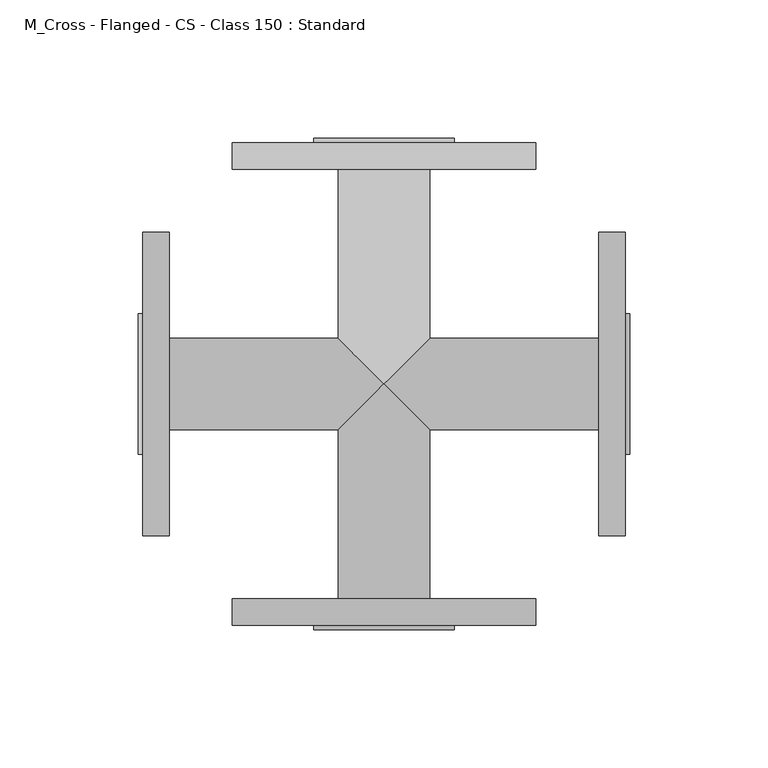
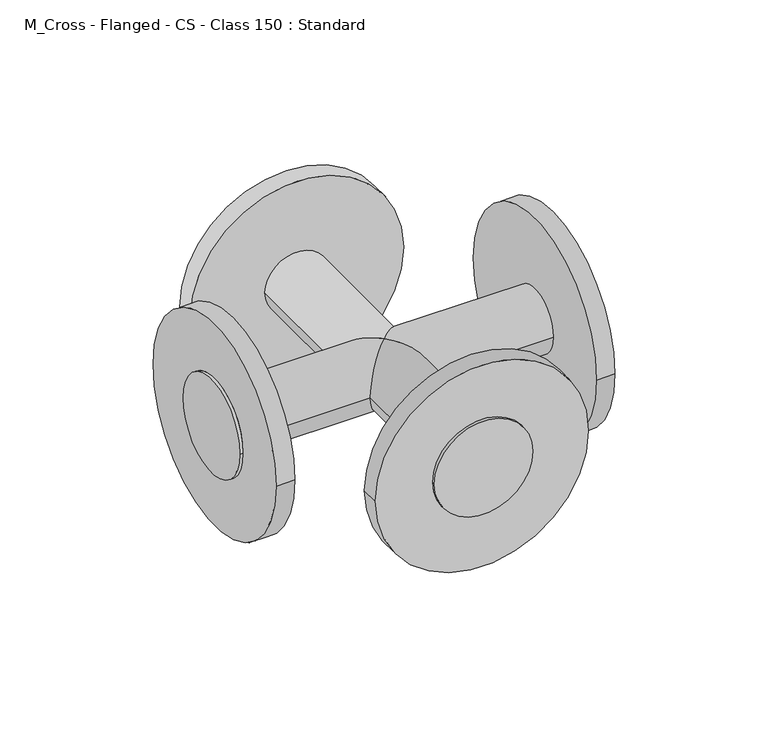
"""IFC4 building model written with IfcOpenShell, lengths in millimetres: pipe fitting geometry, M_Cross - Flanged - CS - Class 150 : Standard."""

import ifcopenshell
import ifcopenshell.guid

model = None  # the IFC model being written
_history = None  # IfcOwnerHistory: only IFC2X3 demands one
_inside = {}  # id of a spatial element -> (the spatial element, [elements in it])
_under = {}  # id of a project, library or spatial element -> (it, [spatial elements below it])
_declared = {}  # id of a project -> (the project, [libraries it declares])
_typed = {}  # id of a type object -> (the type object, [elements of that type])
_made_of = {}  # id of a material, layer set ... -> (it, [elements and type objects made of it])


def new_model(schema):
    """Start an empty IFC model of exactly this schema.

    Asked for "IFC4X3", IfcOpenShell would pick the latest addendum, in which some entities
    have other attributes; the version numbers below select the first issue.
    IFC2X3 requires an IfcOwnerHistory on every rooted entity: one is made here for all.
    """
    global model, _history
    if schema == "IFC4X3":
        model = ifcopenshell.file(schema_version=(4, 3, 0, 0))
    else:
        model = ifcopenshell.file(schema=schema)
    _inside.clear()
    _under.clear()
    _declared.clear()
    _typed.clear()
    _made_of.clear()
    _history = None
    if model.schema == "IFC2X3":
        org = make("IfcOrganization", Name="unknown")
        user = make(
            "IfcPersonAndOrganization",
            ThePerson=make("IfcPerson", FamilyName="unknown"),
            TheOrganization=org,
        )
        app = make(
            "IfcApplication",
            ApplicationDeveloper=org,
            Version="unknown",
            ApplicationFullName="unknown",
            ApplicationIdentifier="unknown",
        )
        _history = make(
            "IfcOwnerHistory",
            OwningUser=user,
            OwningApplication=app,
            ChangeAction="ADDED",
            CreationDate=0,
        )
    return model


def make(cls, **values):
    """One entity of the class cls with the attributes given. An attribute that is None is left unset."""
    return model.create_entity(
        cls, **{name: value for name, value in values.items() if value is not None}
    )


def rooted(cls, **values):
    """An entity with a GlobalId (a new one), such as an element, a storey or a relation."""
    return make(cls, GlobalId=ifcopenshell.guid.new(), OwnerHistory=_history, **values)


def si_unit(unit_type, name, prefix=None):
    """IfcSIUnit, for example si_unit("LENGTHUNIT", "METRE", prefix="MILLI")."""
    return make("IfcSIUnit", UnitType=unit_type, Prefix=prefix, Name=name)


def assignment(units):
    """IfcUnitAssignment: the units of a project."""
    return None if units is None else make("IfcUnitAssignment", Units=units)


def point(xyz):
    """IfcCartesianPoint."""
    return None if xyz is None else make("IfcCartesianPoint", Coordinates=xyz)


def direction(xyz):
    """IfcDirection."""
    return None if xyz is None else make("IfcDirection", DirectionRatios=xyz)


def frame(location, z_axis=None, x_axis=None):
    """IfcAxis2Placement3D, a coordinate frame: its origin and axes. An axis left out is left unset."""
    return make(
        "IfcAxis2Placement3D",
        Location=point(location),
        Axis=direction(z_axis),
        RefDirection=direction(x_axis),
    )


def origin():
    """The frame at (0, 0, 0) with its axes left unset."""
    return frame((0.0, 0.0, 0.0))


def place(relative_to, where):
    """IfcLocalPlacement: puts the frame where relative to a parent placement (None: the world)."""
    return make(
        "IfcLocalPlacement", PlacementRelTo=relative_to, RelativePlacement=where
    )


def context(
    kind, dimensions, precision=None, world=None, true_north=None, identifier=None
):
    """IfcGeometricRepresentationContext, for example the 3D "Model" context."""
    return make(
        "IfcGeometricRepresentationContext",
        ContextIdentifier=identifier,
        ContextType=kind,
        CoordinateSpaceDimension=dimensions,
        Precision=precision,
        WorldCoordinateSystem=world,
        TrueNorth=true_north,
    )


def project(units=None, contexts=None):
    """IfcProject with its units and contexts."""
    return rooted(
        "IfcProject",
        Name="project",
        RepresentationContexts=contexts,
        UnitsInContext=assignment(units),
    )


def spatial(cls, under=None, at=None, **own):
    """A site, building, storey or space (cls), placed at a placement, below another one or the project."""
    s = rooted(cls, ObjectPlacement=at, **own)
    if under is not None:
        _under.setdefault(under.id(), (under, []))[1].append(s)
    return s


def circle_curve(where, radius):
    """IfcCircle in the frame where."""
    return make("IfcCircle", Position=where, Radius=radius)


def ellipse_curve(where, semi_axis1, semi_axis2):
    """IfcEllipse in the frame where."""
    return make(
        "IfcEllipse", Position=where, SemiAxis1=semi_axis1, SemiAxis2=semi_axis2
    )


def shape(context_of_items, identifier, shape_type, items):
    """IfcShapeRepresentation: the items that make up one representation, for example the "Body"."""
    return make(
        "IfcShapeRepresentation",
        ContextOfItems=context_of_items,
        RepresentationIdentifier=identifier,
        RepresentationType=shape_type,
        Items=items,
    )


def source(mapping_origin, context_of_items, identifier, shape_type, items):
    """IfcRepresentationMap: a shape defined once, which mapped items show again and again."""
    return make(
        "IfcRepresentationMap",
        MappingOrigin=mapping_origin,
        MappedRepresentation=shape(context_of_items, identifier, shape_type, items),
    )


def transform(
    local_origin,
    x_axis=None,
    y_axis=None,
    z_axis=None,
    scale=None,
    scale2=None,
    scale3=None,
    uniform=True,
):
    """IfcCartesianTransformationOperator3D, or its non-uniform kind. x_axis, y_axis, z_axis: its Axis1, 2, 3."""
    if uniform:
        return make(
            "IfcCartesianTransformationOperator3D",
            Axis1=direction(x_axis),
            Axis2=direction(y_axis),
            LocalOrigin=point(local_origin),
            Scale=scale,
            Axis3=direction(z_axis),
        )
    return make(
        "IfcCartesianTransformationOperator3DnonUniform",
        Axis1=direction(x_axis),
        Axis2=direction(y_axis),
        LocalOrigin=point(local_origin),
        Scale=scale,
        Axis3=direction(z_axis),
        Scale2=scale2,
        Scale3=scale3,
    )


def mapped(mapping_source, mapping_target):
    """IfcMappedItem: shows the shape of a source again, moved by a transform."""
    return make(
        "IfcMappedItem", MappingSource=mapping_source, MappingTarget=mapping_target
    )


def made_of(thing, what):
    """Note that an element or type object is made of a material, layer set ...; save() writes the relation."""
    if what is not None:
        _made_of.setdefault(what.id(), (what, []))[1].append(thing)
    return thing


def element(
    cls,
    number,
    at=None,
    inside=None,
    cuts=None,
    type_object=None,
    material=None,
    context=None,
    identifier="Body",
    shape_type=None,
    held_by="IfcProductDefinitionShape",
    body=None,
    shapes=None,
    **own,
):
    """One element of the class cls, such as IfcWall. Its Tag is "e" and its number.

    at: its placement. inside: the storey or other place that contains it. cuts: it is an
    opening in that element (IfcRelVoidsElement). A single representation is given by context,
    identifier, shape_type and body (its items); several are given by shapes. held_by: the class
    of the entity that holds the representations. save() writes the other relations.
    """
    e = rooted(cls, Tag="e%d" % number, ObjectPlacement=at, **own)
    if body is not None:
        shapes = [shape(context, identifier, shape_type, body)]
    if shapes is not None:
        e.Representation = make(held_by, Representations=shapes)
    if inside is not None:
        _inside.setdefault(inside.id(), (inside, []))[1].append(e)
    if cuts is not None:
        rooted(
            "IfcRelVoidsElement", RelatingBuildingElement=cuts, RelatedOpeningElement=e
        )
    if type_object is not None:
        _typed.setdefault(type_object.id(), (type_object, []))[1].append(e)
    return made_of(e, material)


def aggregate(whole, parts):
    """IfcRelAggregates: a whole, such as a stair, and the parts it consists of."""
    return rooted("IfcRelAggregates", RelatingObject=whole, RelatedObjects=parts)


def save(model, path):
    """Write the relations noted so far, then the file.

    IfcRelAggregates (storeys below a building ...), IfcRelContainedInSpatialStructure (elements
    in a storey), IfcRelDefinesByType, IfcRelAssociatesMaterial and IfcRelDeclares: one each for
    every whole, place, type object, material and project.
    """
    for whole, parts in _under.values():
        aggregate(whole, parts)
    for where, things in _inside.values():
        rooted(
            "IfcRelContainedInSpatialStructure",
            RelatedElements=things,
            RelatingStructure=where,
        )
    for kind, things in _typed.values():
        rooted("IfcRelDefinesByType", RelatedObjects=things, RelatingType=kind)
    for what, things in _made_of.values():
        rooted("IfcRelAssociatesMaterial", RelatedObjects=things, RelatingMaterial=what)
    for by, libraries in _declared.values():
        rooted("IfcRelDeclares", RelatingContext=by, RelatedDefinitions=libraries)
    model.write(path)


def plane_surface(at):
    """IfcPlane: the flat surface through the origin of the frame at, square to its z axis."""
    return make("IfcPlane", Position=at)


def cylinder_surface(at, radius):
    """IfcCylindricalSurface: all points at the distance radius from the z axis of the frame at."""
    return make("IfcCylindricalSurface", Position=at, Radius=radius)


def advanced_brep(points, edges, surfaces, faces):
    """IfcAdvancedBrep: a solid bounded by faces that lie on surfaces and meet in shared edges.

    An edge is (start, end): straight between two places in points (the first is 0);
    or (start, end, curve); or (start, end, curve, False) where it runs against its curve.
    A face is (place in surfaces, loops), or (place, loops, False) where it looks against
    its surface's normal. A loop lists edges by number (the first is 1), with a minus sign
    where the edge is run from its end to its start. The first loop is the outer one.
    """
    corners = [point(p) for p in points]
    vertices = [make("IfcVertexPoint", VertexGeometry=c) for c in corners]
    made = []
    for start, end, *more in edges:
        made.append(
            make(
                "IfcEdgeCurve",
                EdgeStart=vertices[start],
                EdgeEnd=vertices[end],
                EdgeGeometry=more[0] if more else make("IfcPolyline", Points=[corners[start], corners[end]]),
                SameSense=more[1] if len(more) > 1 else True,
            )
        )
    hull = []
    for where, loops, *sense in faces:
        bounds = []
        for j, loop in enumerate(loops):
            ring = [make("IfcOrientedEdge", EdgeElement=made[abs(k) - 1], Orientation=k > 0) for k in loop]
            bounds.append(
                make(
                    "IfcFaceOuterBound" if j == 0 else "IfcFaceBound",
                    Bound=make("IfcEdgeLoop", EdgeList=ring),
                    Orientation=True,
                )
            )
        hull.append(make("IfcAdvancedFace", Bounds=bounds, FaceSurface=surfaces[where], SameSense=sense[0] if sense else True))
    return make("IfcAdvancedBrep", Outer=make("IfcClosedShell", CfsFaces=hull))


def m_cross_flanged_cs_class_150_standard_16d34c5c(model_context):
    return source(origin(), model_context, "Body", "AdvancedBrep", [
        advanced_brep(
        [(55.0, 77.8125, 0.0), (-55.0, 77.8125, 0.0), (-16.5, 77.8125, 0.0), (16.5, 77.8125, 0.0), (55.0, 87.4125, 0.0), (-55.0, 87.4125, 0.0), (25.4, 87.4125, 0.0), (-25.4, 87.4125, 0.0), (-16.5, 16.5, 0.0), (0.0, 0.0, 16.5), (16.5, 16.5, 0.0), (0.0, 0.0, -16.5), (25.4, 89.0, 0.0), (-25.4, 89.0, 0.0), (-16.5, -77.8125, 0.0), (16.5, -77.8125, 0.0), (16.5, -16.5, 0.0), (-16.5, -16.5, 0.0), (-55.0, -77.8125, 0.0), (55.0, -77.8125, 0.0), (-55.0, -87.4125, 0.0), (55.0, -87.4125, 0.0), (-25.4, -87.4125, 0.0), (25.4, -87.4125, 0.0), (-25.4, -89.0, 0.0), (25.4, -89.0, 0.0), (77.8125, 16.5, 0.0), (77.8125, -16.5, 0.0), (-77.8125, 16.5, 0.0), (-77.8125, -16.5, 0.0), (-87.4125, -55.0, 0.0), (-87.4125, 55.0, 0.0), (-87.4125, 25.4, 0.0), (-87.4125, -25.4, 0.0), (-77.8125, -55.0, 0.0), (-77.8125, 55.0, 0.0), (77.8125, -55.0, 0.0), (77.8125, 55.0, 0.0), (87.4125, -55.0, 0.0), (87.4125, 55.0, 0.0), (87.4125, -25.4, 0.0), (87.4125, 25.4, 0.0), (89.0, -25.4, 0.0), (89.0, 25.4, 0.0), (-89.0, 25.4, 0.0), (-89.0, -25.4, 0.0)],
        [
            (0, 1, circle_curve(frame((0.0, 77.8125, 0.0), z_axis=(0.0, -1.0, 0.0), x_axis=(-1.0, 0.0, 0.0)), 55.0)),
            (1, 0, circle_curve(frame((0.0, 77.8125, 0.0), z_axis=(0.0, -1.0, 0.0), x_axis=(-1.0, 0.0, 0.0)), 55.0)),
            (2, 3, circle_curve(frame((0.0, 77.8125, 0.0), z_axis=(0.0, 1.0, 0.0), x_axis=(-1.0, 0.0, 0.0)), 16.5)),
            (3, 2, circle_curve(frame((0.0, 77.8125, 0.0), z_axis=(0.0, 1.0, 0.0), x_axis=(-1.0, 0.0, 0.0)), 16.5)),
            (4, 5, circle_curve(frame((0.0, 87.4125, 0.0), z_axis=(0.0, 1.0, 0.0), x_axis=(-1.0, 0.0, 0.0)), 55.0)),
            (5, 4, circle_curve(frame((0.0, 87.4125, 0.0), z_axis=(0.0, 1.0, 0.0), x_axis=(-1.0, 0.0, 0.0)), 55.0)),
            (6, 7, circle_curve(frame((0.0, 87.4125, 0.0), z_axis=(0.0, -1.0, 0.0), x_axis=(-1.0, 0.0, 0.0)), 25.4)),
            (7, 6, circle_curve(frame((0.0, 87.4125, 0.0), z_axis=(0.0, -1.0, 0.0), x_axis=(-1.0, 0.0, 0.0)), 25.4)),
            (0, 4),
            (5, 1),
            (2, 8),
            (8, 9, ellipse_curve(frame((0.0, 0.0, 0.0), z_axis=(0.707106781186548, 0.7071067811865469, 0.0), x_axis=(0.7071067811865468, -0.7071067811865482, 0.0)), 23.3345238, 16.5)),
            (9, 10, ellipse_curve(frame((0.0, 0.0, 0.0), z_axis=(-0.7071067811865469, 0.7071067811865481, 0.0), x_axis=(-0.7071067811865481, -0.7071067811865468, 0.0)), 23.3345238, 16.5)),
            (10, 3),
            (10, 11, ellipse_curve(frame((0.0, 0.0, 0.0), z_axis=(-0.7071067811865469, 0.7071067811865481, 0.0), x_axis=(-0.7071067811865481, -0.7071067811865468, 0.0)), 23.3345238, 16.5)),
            (11, 8, ellipse_curve(frame((0.0, 0.0, 0.0), z_axis=(0.707106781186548, 0.7071067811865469, 0.0), x_axis=(0.7071067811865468, -0.7071067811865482, 0.0)), 23.3345238, 16.5)),
            (12, 13, circle_curve(frame((0.0, 89.0, 0.0), z_axis=(0.0, 1.0, 0.0), x_axis=(-1.0, 0.0, 0.0)), 25.4)),
            (13, 12, circle_curve(frame((0.0, 89.0, 0.0), z_axis=(0.0, 1.0, 0.0), x_axis=(-1.0, 0.0, 0.0)), 25.4)),
            (13, 7),
            (6, 12),
            (14, 15, circle_curve(frame((0.0, -77.8125, 0.0), z_axis=(0.0, 1.0, 0.0), x_axis=(1.0, 0.0, 0.0)), 16.5)),
            (15, 16),
            (16, 9, ellipse_curve(frame((0.0, 0.0, 0.0), z_axis=(-0.7071067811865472, -0.7071067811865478, 0.0), x_axis=(-0.7071067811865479, 0.7071067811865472, 0.0)), 23.3345238, 16.5)),
            (9, 17, ellipse_curve(frame((0.0, 0.0, 0.0), z_axis=(0.7071067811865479, -0.7071067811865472, 0.0), x_axis=(0.7071067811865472, 0.7071067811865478, 0.0)), 23.3345238, 16.5)),
            (17, 14),
            (15, 14, circle_curve(frame((0.0, -77.8125, 0.0), z_axis=(0.0, 1.0, 0.0), x_axis=(1.0, 0.0, 0.0)), 16.5)),
            (17, 11, ellipse_curve(frame((0.0, 0.0, 0.0), z_axis=(0.7071067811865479, -0.7071067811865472, 0.0), x_axis=(0.7071067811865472, 0.7071067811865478, 0.0)), 23.3345238, 16.5)),
            (11, 16, ellipse_curve(frame((0.0, 0.0, 0.0), z_axis=(-0.7071067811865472, -0.7071067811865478, 0.0), x_axis=(-0.7071067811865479, 0.7071067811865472, 0.0)), 23.3345238, 16.5)),
            (18, 19, circle_curve(frame((0.0, -77.8125, 0.0), z_axis=(0.0, 1.0, 0.0), x_axis=(1.0, 0.0, 0.0)), 55.0)),
            (19, 18, circle_curve(frame((0.0, -77.8125, 0.0), z_axis=(0.0, 1.0, 0.0), x_axis=(1.0, 0.0, 0.0)), 55.0)),
            (20, 21, circle_curve(frame((0.0, -87.4125, 0.0), z_axis=(0.0, -1.0, 0.0), x_axis=(1.0, 0.0, 0.0)), 55.0)),
            (21, 20, circle_curve(frame((0.0, -87.4125, 0.0), z_axis=(0.0, -1.0, 0.0), x_axis=(1.0, 0.0, 0.0)), 55.0)),
            (22, 23, circle_curve(frame((0.0, -87.4125, 0.0), z_axis=(0.0, 1.0, 0.0), x_axis=(1.0, 0.0, 0.0)), 25.4)),
            (23, 22, circle_curve(frame((0.0, -87.4125, 0.0), z_axis=(0.0, 1.0, 0.0), x_axis=(1.0, 0.0, 0.0)), 25.4)),
            (18, 20),
            (21, 19),
            (24, 25, circle_curve(frame((0.0, -89.0, 0.0), z_axis=(0.0, -1.0, 0.0), x_axis=(1.0, 0.0, 0.0)), 25.4)),
            (25, 24, circle_curve(frame((0.0, -89.0, 0.0), z_axis=(0.0, -1.0, 0.0), x_axis=(1.0, 0.0, 0.0)), 25.4)),
            (25, 23),
            (22, 24),
            (26, 10),
            (16, 27),
            (27, 26, circle_curve(frame((77.8125, 0.0, 0.0), z_axis=(-1.0, 0.0, 0.0), x_axis=(0.0, 1.0, 0.0)), 16.5)),
            (26, 27, circle_curve(frame((77.8125, 0.0, 0.0), z_axis=(-1.0, 0.0, 0.0), x_axis=(0.0, 1.0, 0.0)), 16.5)),
            (8, 28),
            (28, 29, circle_curve(frame((-77.8125, 0.0, 0.0), z_axis=(1.0, 0.0, 0.0), x_axis=(0.0, 1.0, 0.0)), 16.5)),
            (29, 17),
            (29, 28, circle_curve(frame((-77.8125, 0.0, 0.0), z_axis=(1.0, 0.0, 0.0), x_axis=(0.0, 1.0, 0.0)), 16.5)),
            (30, 31, circle_curve(frame((-87.4125, 0.0, 0.0), z_axis=(-1.0, 0.0, 0.0), x_axis=(0.0, 1.0, 0.0)), 55.0)),
            (31, 30, circle_curve(frame((-87.4125, 0.0, 0.0), z_axis=(-1.0, 0.0, 0.0), x_axis=(0.0, 1.0, 0.0)), 55.0)),
            (32, 33, circle_curve(frame((-87.4125, 0.0, 0.0), z_axis=(1.0, 0.0, 0.0), x_axis=(0.0, -1.0, 0.0)), 25.4)),
            (33, 32, circle_curve(frame((-87.4125, 0.0, 0.0), z_axis=(1.0, 0.0, 0.0), x_axis=(0.0, -1.0, 0.0)), 25.4)),
            (34, 35, circle_curve(frame((-77.8125, 0.0, 0.0), z_axis=(1.0, 0.0, 0.0), x_axis=(0.0, 1.0, 0.0)), 55.0)),
            (35, 34, circle_curve(frame((-77.8125, 0.0, 0.0), z_axis=(1.0, 0.0, 0.0), x_axis=(0.0, 1.0, 0.0)), 55.0)),
            (30, 34),
            (35, 31),
            (36, 37, circle_curve(frame((77.8125, 0.0, 0.0), z_axis=(-1.0, 0.0, 0.0), x_axis=(0.0, 1.0, 0.0)), 55.0)),
            (37, 36, circle_curve(frame((77.8125, 0.0, 0.0), z_axis=(-1.0, 0.0, 0.0), x_axis=(0.0, 1.0, 0.0)), 55.0)),
            (38, 39, circle_curve(frame((87.4125, 0.0, 0.0), z_axis=(1.0, 0.0, 0.0), x_axis=(0.0, 1.0, 0.0)), 55.0)),
            (39, 38, circle_curve(frame((87.4125, 0.0, 0.0), z_axis=(1.0, 0.0, 0.0), x_axis=(0.0, 1.0, 0.0)), 55.0)),
            (40, 41, circle_curve(frame((87.4125, 0.0, 0.0), z_axis=(-1.0, 0.0, 0.0), x_axis=(0.0, 1.0, 0.0)), 25.4)),
            (41, 40, circle_curve(frame((87.4125, 0.0, 0.0), z_axis=(-1.0, 0.0, 0.0), x_axis=(0.0, 1.0, 0.0)), 25.4)),
            (36, 38),
            (39, 37),
            (42, 43, circle_curve(frame((89.0, 0.0, 0.0), z_axis=(1.0, 0.0, 0.0), x_axis=(0.0, 1.0, 0.0)), 25.4)),
            (43, 42, circle_curve(frame((89.0, 0.0, 0.0), z_axis=(1.0, 0.0, 0.0), x_axis=(0.0, 1.0, 0.0)), 25.4)),
            (43, 41),
            (40, 42),
            (44, 45, circle_curve(frame((-89.0, 0.0, 0.0), z_axis=(-1.0, 0.0, 0.0), x_axis=(0.0, -1.0, 0.0)), 25.4)),
            (45, 44, circle_curve(frame((-89.0, 0.0, 0.0), z_axis=(-1.0, 0.0, 0.0), x_axis=(0.0, -1.0, 0.0)), 25.4)),
            (45, 33),
            (32, 44),
        ],
        [
            plane_surface(frame((0.0, 77.8125, 0.0), z_axis=(0.0, -1.0, 0.0), x_axis=(0.0, 0.0, 1.0))),
            plane_surface(frame((0.0, 87.4125, 0.0), z_axis=(0.0, 1.0, 0.0), x_axis=(0.0, 0.0, 1.0))),
            cylinder_surface(frame((0.0, 77.8125, 0.0), z_axis=(0.0, -1.0, 0.0), x_axis=(-1.0, 0.0, 0.0)), 55.0),
            cylinder_surface(frame((0.0, 0.0, 0.0), z_axis=(0.0, -1.0, 0.0), x_axis=(-1.0, 0.0, 0.0)), 16.5),
            plane_surface(frame((0.0, 89.0, 0.0), z_axis=(0.0, 1.0, 0.0), x_axis=(0.0, 0.0, 1.0))),
            cylinder_surface(frame((0.0, 87.4125, 0.0), z_axis=(0.0, -1.0, 0.0), x_axis=(-1.0, 0.0, 0.0)), 25.4),
            cylinder_surface(frame((0.0, 0.0, 0.0), z_axis=(0.0, 1.0, 0.0), x_axis=(1.0, 0.0, 0.0)), 16.5),
            plane_surface(frame((0.0, -77.8125, 0.0), z_axis=(0.0, 1.0, 0.0), x_axis=(0.0, 0.0, 1.0))),
            plane_surface(frame((0.0, -87.4125, 0.0), z_axis=(0.0, -1.0, 0.0), x_axis=(0.0, 0.0, 1.0))),
            cylinder_surface(frame((0.0, -77.8125, 0.0), z_axis=(0.0, 1.0, 0.0), x_axis=(1.0, 0.0, 0.0)), 55.0),
            plane_surface(frame((0.0, -89.0, 0.0), z_axis=(0.0, -1.0, 0.0), x_axis=(0.0, 0.0, 1.0))),
            cylinder_surface(frame((0.0, -87.4125, 0.0), z_axis=(0.0, 1.0, 0.0), x_axis=(1.0, 0.0, 0.0)), 25.4),
            cylinder_surface(frame((0.0, 0.0, 0.0), z_axis=(-1.0, 0.0, 0.0), x_axis=(0.0, 1.0, 0.0)), 16.5),
            cylinder_surface(frame((-77.8125, 0.0, 0.0), z_axis=(-1.0, 0.0, 0.0), x_axis=(0.0, 1.0, 0.0)), 16.5),
            plane_surface(frame((-87.4125, 0.0, 0.0), z_axis=(-1.0, 0.0, 0.0), x_axis=(0.0, 0.0, 1.0))),
            plane_surface(frame((-77.8125, 0.0, 0.0), z_axis=(1.0, 0.0, 0.0), x_axis=(0.0, 0.0, 1.0))),
            cylinder_surface(frame((-87.4125, 0.0, 0.0), z_axis=(-1.0, 0.0, 0.0), x_axis=(0.0, 1.0, 0.0)), 55.0),
            plane_surface(frame((77.8125, 0.0, 0.0), z_axis=(-1.0, 0.0, 0.0), x_axis=(0.0, 0.0, 1.0))),
            plane_surface(frame((87.4125, 0.0, 0.0), z_axis=(1.0, 0.0, 0.0), x_axis=(0.0, 0.0, 1.0))),
            cylinder_surface(frame((77.8125, 0.0, 0.0), z_axis=(-1.0, 0.0, 0.0), x_axis=(0.0, 1.0, 0.0)), 55.0),
            plane_surface(frame((89.0, 0.0, 0.0), z_axis=(1.0, 0.0, 0.0), x_axis=(0.0, 0.0, 1.0))),
            cylinder_surface(frame((87.4125, 0.0, 0.0), z_axis=(-1.0, 0.0, 0.0), x_axis=(0.0, 1.0, 0.0)), 25.4),
            plane_surface(frame((-89.0, 0.0, 0.0), z_axis=(-1.0, 0.0, 0.0), x_axis=(0.0, 0.0, 1.0))),
            cylinder_surface(frame((-87.4125, 0.0, 0.0), z_axis=(1.0, 0.0, 0.0), x_axis=(0.0, -1.0, 0.0)), 25.4),
        ],
        [
            (0, [[1, 2], [3, 4]]),
            (1, [[5, 6], [7, 8]]),
            (2, [[-1, 9, -6, 10]]),
            (2, [[-2, -10, -5, -9]]),
            (3, [[-3, 11, 12, 13, 14]]),
            (3, [[-4, -14, 15, 16, -11]]),
            (4, [[17, 18]]),
            (5, [[-18, 19, -7, 20]]),
            (5, [[-17, -20, -8, -19]]),
            (6, [[21, 22, 23, 24, 25]]),
            (6, [[26, -25, 27, 28, -22]]),
            (7, [[29, 30], [-21, -26]]),
            (8, [[31, 32], [33, 34]]),
            (9, [[-29, 35, -32, 36]]),
            (9, [[-30, -36, -31, -35]]),
            (10, [[37, 38]]),
            (11, [[-38, 39, -33, 40]]),
            (11, [[-37, -40, -34, -39]]),
            (12, [[41, -13, -23, 42, 43]]),
            (12, [[-41, 44, -42, -28, -15]]),
            (13, [[45, 46, 47, -24, -12]]),
            (13, [[-45, -16, -27, -47, 48]]),
            (14, [[49, 50], [51, 52]]),
            (15, [[53, 54], [-46, -48]]),
            (16, [[-49, 55, -54, 56]]),
            (16, [[-50, -56, -53, -55]]),
            (17, [[57, 58], [-43, -44]]),
            (18, [[59, 60], [61, 62]]),
            (19, [[-57, 63, -60, 64]]),
            (19, [[-58, -64, -59, -63]]),
            (20, [[65, 66]]),
            (21, [[-66, 67, -61, 68]]),
            (21, [[-65, -68, -62, -67]]),
            (22, [[69, 70]]),
            (23, [[-70, 71, -51, 72]]),
            (23, [[-69, -72, -52, -71]]),
        ],
    ),
    ])


if __name__ == "__main__":
    model = new_model("IFC4")
    model_context = context("Model", 3, world=origin())
    ifc_project = project(units=[si_unit("LENGTHUNIT", "METRE", prefix="MILLI")], contexts=[model_context])
    site = spatial("IfcSite", under=ifc_project)
    building = spatial("IfcBuilding", under=site)
    placement = place(None, origin())
    m_cross_flanged_cs_class_150_standard_shape = m_cross_flanged_cs_class_150_standard_16d34c5c(model_context)
    element("IfcPipeFitting", 1, ObjectType="M_Cross - Flanged - CS - Class 150 : Standard", at=placement, inside=building, context=model_context, shape_type="MappedRepresentation", body=[
        mapped(m_cross_flanged_cs_class_150_standard_shape, transform((0.0, 0.0, 0.0), x_axis=(1.0, 0.0, 0.0), y_axis=(0.0, 1.0, 0.0), z_axis=(0.0, 0.0, 1.0))),
    ])
    save(model, "model.ifc")
